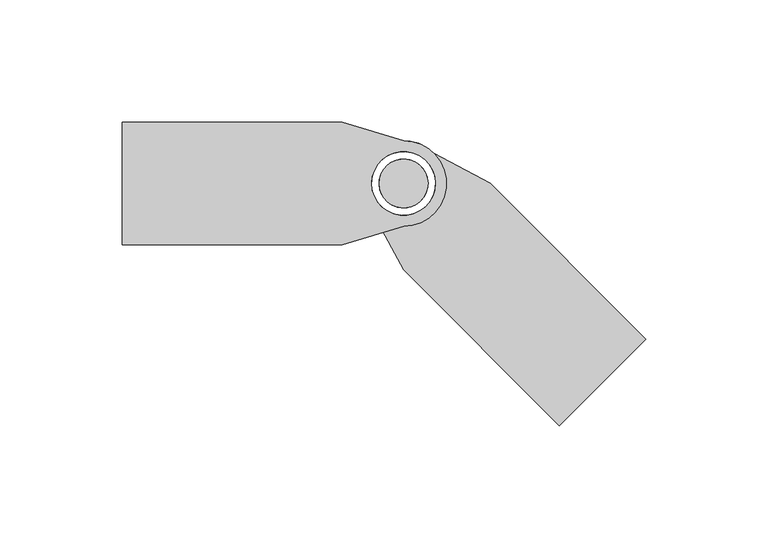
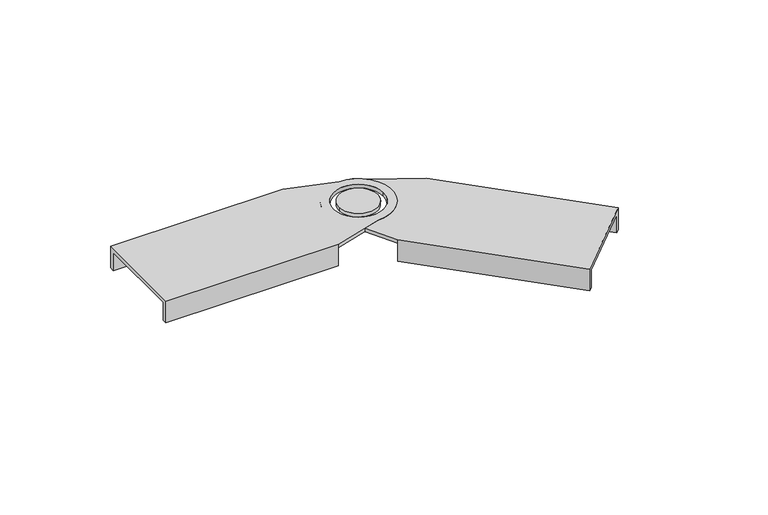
"""IFC4 building model written with IfcOpenShell, lengths in millimetres: cable carrier fitting geometry, BAKS_LD_BEND_Articulated connector_LG : LGC_H45."""

import ifcopenshell
import ifcopenshell.guid

model = None  # the IFC model being written
_history = None  # IfcOwnerHistory: only IFC2X3 demands one
_inside = {}  # id of a spatial element -> (the spatial element, [elements in it])
_under = {}  # id of a project, library or spatial element -> (it, [spatial elements below it])
_declared = {}  # id of a project -> (the project, [libraries it declares])
_typed = {}  # id of a type object -> (the type object, [elements of that type])
_made_of = {}  # id of a material, layer set ... -> (it, [elements and type objects made of it])


def new_model(schema):
    """Start an empty IFC model of exactly this schema.

    Asked for "IFC4X3", IfcOpenShell would pick the latest addendum, in which some entities
    have other attributes; the version numbers below select the first issue.
    IFC2X3 requires an IfcOwnerHistory on every rooted entity: one is made here for all.
    """
    global model, _history
    if schema == "IFC4X3":
        model = ifcopenshell.file(schema_version=(4, 3, 0, 0))
    else:
        model = ifcopenshell.file(schema=schema)
    _inside.clear()
    _under.clear()
    _declared.clear()
    _typed.clear()
    _made_of.clear()
    _history = None
    if model.schema == "IFC2X3":
        org = make("IfcOrganization", Name="unknown")
        user = make(
            "IfcPersonAndOrganization",
            ThePerson=make("IfcPerson", FamilyName="unknown"),
            TheOrganization=org,
        )
        app = make(
            "IfcApplication",
            ApplicationDeveloper=org,
            Version="unknown",
            ApplicationFullName="unknown",
            ApplicationIdentifier="unknown",
        )
        _history = make(
            "IfcOwnerHistory",
            OwningUser=user,
            OwningApplication=app,
            ChangeAction="ADDED",
            CreationDate=0,
        )
    return model


def make(cls, **values):
    """One entity of the class cls with the attributes given. An attribute that is None is left unset."""
    return model.create_entity(
        cls, **{name: value for name, value in values.items() if value is not None}
    )


def rooted(cls, **values):
    """An entity with a GlobalId (a new one), such as an element, a storey or a relation."""
    return make(cls, GlobalId=ifcopenshell.guid.new(), OwnerHistory=_history, **values)


def si_unit(unit_type, name, prefix=None):
    """IfcSIUnit, for example si_unit("LENGTHUNIT", "METRE", prefix="MILLI")."""
    return make("IfcSIUnit", UnitType=unit_type, Prefix=prefix, Name=name)


def assignment(units):
    """IfcUnitAssignment: the units of a project."""
    return None if units is None else make("IfcUnitAssignment", Units=units)


def point(xyz):
    """IfcCartesianPoint."""
    return None if xyz is None else make("IfcCartesianPoint", Coordinates=xyz)


def direction(xyz):
    """IfcDirection."""
    return None if xyz is None else make("IfcDirection", DirectionRatios=xyz)


def frame(location, z_axis=None, x_axis=None):
    """IfcAxis2Placement3D, a coordinate frame: its origin and axes. An axis left out is left unset."""
    return make(
        "IfcAxis2Placement3D",
        Location=point(location),
        Axis=direction(z_axis),
        RefDirection=direction(x_axis),
    )


def origin():
    """The frame at (0, 0, 0) with its axes left unset."""
    return frame((0.0, 0.0, 0.0))


def place(relative_to, where):
    """IfcLocalPlacement: puts the frame where relative to a parent placement (None: the world)."""
    return make(
        "IfcLocalPlacement", PlacementRelTo=relative_to, RelativePlacement=where
    )


def context(
    kind, dimensions, precision=None, world=None, true_north=None, identifier=None
):
    """IfcGeometricRepresentationContext, for example the 3D "Model" context."""
    return make(
        "IfcGeometricRepresentationContext",
        ContextIdentifier=identifier,
        ContextType=kind,
        CoordinateSpaceDimension=dimensions,
        Precision=precision,
        WorldCoordinateSystem=world,
        TrueNorth=true_north,
    )


def project(units=None, contexts=None):
    """IfcProject with its units and contexts."""
    return rooted(
        "IfcProject",
        Name="project",
        RepresentationContexts=contexts,
        UnitsInContext=assignment(units),
    )


def spatial(cls, under=None, at=None, **own):
    """A site, building, storey or space (cls), placed at a placement, below another one or the project."""
    s = rooted(cls, ObjectPlacement=at, **own)
    if under is not None:
        _under.setdefault(under.id(), (under, []))[1].append(s)
    return s


def polyline(points):
    """IfcPolyline through the points."""
    return make("IfcPolyline", Points=[point(p) for p in points])


def circle_curve(where, radius):
    """IfcCircle in the frame where."""
    return make("IfcCircle", Position=where, Radius=radius)


def shape(context_of_items, identifier, shape_type, items):
    """IfcShapeRepresentation: the items that make up one representation, for example the "Body"."""
    return make(
        "IfcShapeRepresentation",
        ContextOfItems=context_of_items,
        RepresentationIdentifier=identifier,
        RepresentationType=shape_type,
        Items=items,
    )


def source(mapping_origin, context_of_items, identifier, shape_type, items):
    """IfcRepresentationMap: a shape defined once, which mapped items show again and again."""
    return make(
        "IfcRepresentationMap",
        MappingOrigin=mapping_origin,
        MappedRepresentation=shape(context_of_items, identifier, shape_type, items),
    )


def transform(
    local_origin,
    x_axis=None,
    y_axis=None,
    z_axis=None,
    scale=None,
    scale2=None,
    scale3=None,
    uniform=True,
):
    """IfcCartesianTransformationOperator3D, or its non-uniform kind. x_axis, y_axis, z_axis: its Axis1, 2, 3."""
    if uniform:
        return make(
            "IfcCartesianTransformationOperator3D",
            Axis1=direction(x_axis),
            Axis2=direction(y_axis),
            LocalOrigin=point(local_origin),
            Scale=scale,
            Axis3=direction(z_axis),
        )
    return make(
        "IfcCartesianTransformationOperator3DnonUniform",
        Axis1=direction(x_axis),
        Axis2=direction(y_axis),
        LocalOrigin=point(local_origin),
        Scale=scale,
        Axis3=direction(z_axis),
        Scale2=scale2,
        Scale3=scale3,
    )


def mapped(mapping_source, mapping_target):
    """IfcMappedItem: shows the shape of a source again, moved by a transform."""
    return make(
        "IfcMappedItem", MappingSource=mapping_source, MappingTarget=mapping_target
    )


def made_of(thing, what):
    """Note that an element or type object is made of a material, layer set ...; save() writes the relation."""
    if what is not None:
        _made_of.setdefault(what.id(), (what, []))[1].append(thing)
    return thing


def element(
    cls,
    number,
    at=None,
    inside=None,
    cuts=None,
    type_object=None,
    material=None,
    context=None,
    identifier="Body",
    shape_type=None,
    held_by="IfcProductDefinitionShape",
    body=None,
    shapes=None,
    **own,
):
    """One element of the class cls, such as IfcWall. Its Tag is "e" and its number.

    at: its placement. inside: the storey or other place that contains it. cuts: it is an
    opening in that element (IfcRelVoidsElement). A single representation is given by context,
    identifier, shape_type and body (its items); several are given by shapes. held_by: the class
    of the entity that holds the representations. save() writes the other relations.
    """
    e = rooted(cls, Tag="e%d" % number, ObjectPlacement=at, **own)
    if body is not None:
        shapes = [shape(context, identifier, shape_type, body)]
    if shapes is not None:
        e.Representation = make(held_by, Representations=shapes)
    if inside is not None:
        _inside.setdefault(inside.id(), (inside, []))[1].append(e)
    if cuts is not None:
        rooted(
            "IfcRelVoidsElement", RelatingBuildingElement=cuts, RelatedOpeningElement=e
        )
    if type_object is not None:
        _typed.setdefault(type_object.id(), (type_object, []))[1].append(e)
    return made_of(e, material)


def aggregate(whole, parts):
    """IfcRelAggregates: a whole, such as a stair, and the parts it consists of."""
    return rooted("IfcRelAggregates", RelatingObject=whole, RelatedObjects=parts)


def save(model, path):
    """Write the relations noted so far, then the file.

    IfcRelAggregates (storeys below a building ...), IfcRelContainedInSpatialStructure (elements
    in a storey), IfcRelDefinesByType, IfcRelAssociatesMaterial and IfcRelDeclares: one each for
    every whole, place, type object, material and project.
    """
    for whole, parts in _under.values():
        aggregate(whole, parts)
    for where, things in _inside.values():
        rooted(
            "IfcRelContainedInSpatialStructure",
            RelatedElements=things,
            RelatingStructure=where,
        )
    for kind, things in _typed.values():
        rooted("IfcRelDefinesByType", RelatedObjects=things, RelatingType=kind)
    for what, things in _made_of.values():
        rooted("IfcRelAssociatesMaterial", RelatedObjects=things, RelatingMaterial=what)
    for by, libraries in _declared.values():
        rooted("IfcRelDeclares", RelatingContext=by, RelatedDefinitions=libraries)
    model.write(path)


def plane_surface(at):
    """IfcPlane: the flat surface through the origin of the frame at, square to its z axis."""
    return make("IfcPlane", Position=at)


def cylinder_surface(at, radius):
    """IfcCylindricalSurface: all points at the distance radius from the z axis of the frame at."""
    return make("IfcCylindricalSurface", Position=at, Radius=radius)


def revolved_surface(curve, axis_point, axis_direction):
    """IfcSurfaceOfRevolution: the curve turned about the line through axis_point along axis_direction."""
    return make(
        "IfcSurfaceOfRevolution",
        SweptCurve=make("IfcArbitraryOpenProfileDef", ProfileType="CURVE", Curve=curve),
        AxisPosition=make("IfcAxis1Placement", Location=point(axis_point), Axis=direction(axis_direction)),
    )


def advanced_brep(points, edges, surfaces, faces):
    """IfcAdvancedBrep: a solid bounded by faces that lie on surfaces and meet in shared edges.

    An edge is (start, end): straight between two places in points (the first is 0);
    or (start, end, curve); or (start, end, curve, False) where it runs against its curve.
    A face is (place in surfaces, loops), or (place, loops, False) where it looks against
    its surface's normal. A loop lists edges by number (the first is 1), with a minus sign
    where the edge is run from its end to its start. The first loop is the outer one.
    """
    corners = [point(p) for p in points]
    vertices = [make("IfcVertexPoint", VertexGeometry=c) for c in corners]
    made = []
    for start, end, *more in edges:
        made.append(
            make(
                "IfcEdgeCurve",
                EdgeStart=vertices[start],
                EdgeEnd=vertices[end],
                EdgeGeometry=more[0] if more else make("IfcPolyline", Points=[corners[start], corners[end]]),
                SameSense=more[1] if len(more) > 1 else True,
            )
        )
    hull = []
    for where, loops, *sense in faces:
        bounds = []
        for j, loop in enumerate(loops):
            ring = [make("IfcOrientedEdge", EdgeElement=made[abs(k) - 1], Orientation=k > 0) for k in loop]
            bounds.append(
                make(
                    "IfcFaceOuterBound" if j == 0 else "IfcFaceBound",
                    Bound=make("IfcEdgeLoop", EdgeList=ring),
                    Orientation=True,
                )
            )
        hull.append(make("IfcAdvancedFace", Bounds=bounds, FaceSurface=surfaces[where], SameSense=sense[0] if sense else True))
    return make("IfcAdvancedBrep", Outer=make("IfcClosedShell", CfsFaces=hull))


def cable_carrier_fitting_d229e209(model_context):
    return source(origin(), model_context, "Body", "AdvancedBrep", [
        advanced_brep(
        [(-115.0, -25.0, 2.0), (-25.0, -25.0, 2.0), (0.0, -17.5, 2.0), (0.0, 17.5, 2.0), (-25.0, 25.0, 2.0), (-115.0, 25.0, 2.0), (13.0, 0.0, 2.0), (-13.0, 0.0, 2.0), (-25.0, 25.0, 0.0), (0.0, 17.5, 0.0), (0.0, -17.5, 0.0), (-25.0, -25.0, 0.0), (-25.0, -22.5, 0.0), (-115.0, -22.5, 0.0), (-115.0, 22.5, 0.0), (-25.0, 22.5, 0.0), (-13.0, 0.0, 0.0), (13.0, 0.0, 0.0), (-115.0, -25.0, -10.0), (-25.0, -25.0, -10.0), (-25.0, 25.0, -10.0), (-115.0, 25.0, -10.0), (-115.0, 22.5, -10.0), (-115.0, -22.5, -10.0), (-25.0, 22.5, -10.0), (-25.0, -22.5, -10.0)],
        [
            (0, 1),
            (1, 2),
            (2, 3, circle_curve(frame((0.0, 0.0, 2.0), z_axis=(0.0, 0.0, 1.0), x_axis=(-1.0, 0.0, 0.0)), 17.5)),
            (3, 4),
            (4, 5),
            (5, 0),
            (6, 7, circle_curve(frame((0.0, 0.0, 2.0), z_axis=(0.0, 0.0, -1.0), x_axis=(-1.0, 0.0, 0.0)), 13.0)),
            (7, 6, circle_curve(frame((0.0, 0.0, 2.0), z_axis=(0.0, 0.0, -1.0), x_axis=(-1.0, 0.0, 0.0)), 13.0)),
            (8, 9),
            (9, 10, circle_curve(frame((0.0, 0.0, 0.0), z_axis=(0.0, 0.0, -1.0), x_axis=(-1.0, 0.0, 0.0)), 17.5)),
            (10, 11),
            (11, 12),
            (12, 13),
            (13, 14),
            (14, 15),
            (15, 8),
            (16, 17, circle_curve(frame((0.0, 0.0, 0.0), z_axis=(0.0, 0.0, 1.0), x_axis=(-1.0, 0.0, 0.0)), 13.0)),
            (17, 16, circle_curve(frame((0.0, 0.0, 0.0), z_axis=(0.0, 0.0, 1.0), x_axis=(-1.0, 0.0, 0.0)), 13.0)),
            (0, 18),
            (18, 19),
            (19, 11),
            (11, 1),
            (4, 8),
            (8, 20),
            (20, 21),
            (21, 5),
            (21, 22),
            (22, 14),
            (13, 23),
            (23, 18),
            (6, 17),
            (16, 7),
            (10, 2),
            (9, 3),
            (20, 24),
            (24, 22),
            (24, 15),
            (23, 25),
            (25, 19),
            (25, 12),
        ],
        [
            plane_surface(frame((-25.0, -25.0, 2.0), z_axis=(0.0, 0.0, 1.0), x_axis=(1.0, 0.0, 0.0))),
            plane_surface(frame((-25.0, -25.0, 0.0), z_axis=(0.0, 0.0, -1.0), x_axis=(-1.0, 0.0, 0.0))),
            plane_surface(frame((-115.0, -25.0, 2.0), z_axis=(0.0, -1.0, 0.0), x_axis=(0.0, 0.0, -1.0))),
            plane_surface(frame((-25.0, 25.0, 2.0), z_axis=(0.0, 1.0, 0.0), x_axis=(0.0, 0.0, -1.0))),
            plane_surface(frame((-115.0, 25.0, 2.0), z_axis=(-1.0, 0.0, 0.0), x_axis=(0.0, 0.0, -1.0))),
            revolved_surface(polyline([(-13.0, 0.0, 2.0), (-13.0, 0.0, 0.0)]), (0.0, 0.0, 0.0), (0.0, 0.0, 1.0)),
            plane_surface(frame((-25.0, -25.0, 2.0), z_axis=(0.28734788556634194, -0.9578262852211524, 0.0), x_axis=(0.0, 0.0, -1.0))),
            cylinder_surface(frame((0.0, 0.0, 0.0), z_axis=(0.0, 0.0, 1.0), x_axis=(-1.0, 0.0, 0.0)), 17.5),
            plane_surface(frame((0.0, 17.5, 2.0), z_axis=(0.2873478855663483, 0.9578262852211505, 0.0), x_axis=(0.0, 0.0, -1.0))),
            plane_surface(frame((-25.0, 22.5, -10.0), z_axis=(0.0, 0.0, -1.0), x_axis=(-1.0, 0.0, 0.0))),
            plane_surface(frame((-115.0, 22.5, 0.0), z_axis=(0.0, -1.0, 0.0), x_axis=(0.0, 0.0, -1.0))),
            plane_surface(frame((-25.0, 22.5, 0.0), z_axis=(1.0, 0.0, 0.0), x_axis=(0.0, 0.0, -1.0))),
            plane_surface(frame((-25.0, -25.0, -10.0), z_axis=(0.0, 0.0, -1.0), x_axis=(-1.0, 0.0, 0.0))),
            plane_surface(frame((-25.0, -25.0, 0.0), z_axis=(1.0, 0.0, 0.0), x_axis=(0.0, 0.0, -1.0))),
            plane_surface(frame((-25.0, -22.5, 0.0), z_axis=(0.0, 1.0, 0.0), x_axis=(0.0, 0.0, -1.0))),
        ],
        [
            (0, [[1, 2, 3, 4, 5, 6], [7, 8]]),
            (1, [[9, 10, 11, 12, 13, 14, 15, 16], [17, 18]]),
            (2, [[-1, 19, 20, 21, 22]]),
            (3, [[-5, 23, 24, 25, 26]]),
            (4, [[-19, -6, -26, 27, 28, -14, 29, 30]]),
            (5, [[31, -17, 32, -7]]),
            (5, [[-31, -8, -32, -18]]),
            (6, [[-2, -22, -11, 33]]),
            (7, [[-3, -33, -10, 34]]),
            (8, [[-4, -34, -9, -23]]),
            (9, [[-27, -25, 35, 36]]),
            (10, [[-36, 37, -15, -28]]),
            (11, [[-35, -24, -16, -37]]),
            (12, [[-30, 38, 39, -20]]),
            (13, [[-39, 40, -12, -21]]),
            (14, [[-38, -29, -13, -40]]),
        ],
    ),
        advanced_brep(
        [(10.0, 0.0, 2.0), (-10.0, 0.0, 2.0), (-10.0, 0.0, 0.0), (10.0, 0.0, 0.0)],
        [
            (0, 1, circle_curve(frame((0.0, 0.0, 2.0), z_axis=(0.0, 0.0, 1.0), x_axis=(-1.0, 0.0, 0.0)), 10.0)),
            (1, 0, circle_curve(frame((0.0, 0.0, 2.0), z_axis=(0.0, 0.0, 1.0), x_axis=(-1.0, 0.0, 0.0)), 10.0)),
            (2, 3, circle_curve(frame((0.0, 0.0, 0.0), z_axis=(0.0, 0.0, -1.0), x_axis=(-1.0, 0.0, 0.0)), 10.0)),
            (3, 2, circle_curve(frame((0.0, 0.0, 0.0), z_axis=(0.0, 0.0, -1.0), x_axis=(-1.0, 0.0, 0.0)), 10.0)),
            (0, 3),
            (2, 1),
        ],
        [
            plane_surface(frame((-25.0, -25.0, 2.0), z_axis=(0.0, 0.0, 1.0), x_axis=(1.0, 0.0, 0.0))),
            plane_surface(frame((-25.0, -25.0, 0.0), z_axis=(0.0, 0.0, -1.0), x_axis=(-1.0, 0.0, 0.0))),
            cylinder_surface(frame((0.0, 0.0, 0.0), z_axis=(0.0, 0.0, -1.0), x_axis=(-1.0, 0.0, 0.0)), 10.0),
        ],
        [
            (0, [[1, 2]]),
            (1, [[3, 4]]),
            (2, [[5, -3, 6, -1]]),
            (2, [[-5, -2, -6, -4]]),
        ],
    ),
        advanced_brep(
        [(63.6396103, -98.9949494, 2.0), (98.9949494, -63.6396103, 2.0), (35.3553391, 0.0, 2.0), (12.3743687, 12.3743687, 2.0), (-12.3743687, -12.3743687, 2.0), (0.0, -35.3553391, 2.0), (-9.1923882, 9.1923882, 2.0), (9.1923882, -9.1923882, 2.0), (35.3553391, 0.0, 0.0), (33.5875721, -1.767767, 0.0), (97.2271824, -65.4073773, 0.0), (65.4073773, -97.2271824, 0.0), (1.767767, -33.5875721, 0.0), (0.0, -35.3553391, 0.0), (-12.3743687, -12.3743687, 0.0), (12.3743687, 12.3743687, 0.0), (9.1923882, -9.1923882, 0.0), (-9.1923882, 9.1923882, 0.0), (0.0, -35.3553391, -10.0), (63.6396103, -98.9949494, -10.0), (98.9949494, -63.6396103, -10.0), (35.3553391, 0.0, -10.0), (65.4073773, -97.2271824, -10.0), (97.2271824, -65.4073773, -10.0), (33.5875721, -1.767767, -10.0), (1.767767, -33.5875721, -10.0)],
        [
            (0, 1),
            (1, 2),
            (2, 3),
            (3, 4, circle_curve(frame((0.0, 0.0, 2.0), z_axis=(0.0, 0.0, 1.0), x_axis=(0.7071067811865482, -0.7071067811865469, 0.0)), 17.5)),
            (4, 5),
            (5, 0),
            (6, 7, circle_curve(frame((0.0, 0.0, 2.0), z_axis=(0.0, 0.0, -1.0), x_axis=(0.7071067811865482, -0.7071067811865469, 0.0)), 13.0)),
            (7, 6, circle_curve(frame((0.0, 0.0, 2.0), z_axis=(0.0, 0.0, -1.0), x_axis=(0.7071067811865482, -0.7071067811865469, 0.0)), 13.0)),
            (8, 9),
            (9, 10),
            (10, 11),
            (11, 12),
            (12, 13),
            (13, 14),
            (14, 15, circle_curve(frame((0.0, 0.0, 0.0), z_axis=(0.0, 0.0, -1.0), x_axis=(0.7071067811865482, -0.7071067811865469, 0.0)), 17.5)),
            (15, 8),
            (16, 17, circle_curve(frame((0.0, 0.0, 0.0), z_axis=(0.0, 0.0, 1.0), x_axis=(0.7071067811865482, -0.7071067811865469, 0.0)), 13.0)),
            (17, 16, circle_curve(frame((0.0, 0.0, 0.0), z_axis=(0.0, 0.0, 1.0), x_axis=(0.7071067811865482, -0.7071067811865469, 0.0)), 13.0)),
            (5, 13),
            (13, 18),
            (18, 19),
            (19, 0),
            (1, 20),
            (20, 21),
            (21, 8),
            (8, 2),
            (19, 22),
            (22, 11),
            (10, 23),
            (23, 20),
            (7, 16),
            (17, 6),
            (4, 14),
            (3, 15),
            (23, 24),
            (24, 21),
            (9, 24),
            (18, 25),
            (25, 22),
            (12, 25),
        ],
        [
            plane_surface(frame((0.0, -35.3553391, 2.0), z_axis=(0.0, 0.0, 1.0), x_axis=(-0.7071067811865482, 0.7071067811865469, 0.0))),
            plane_surface(frame((0.0, -35.3553391, 0.0), z_axis=(0.0, 0.0, -1.0), x_axis=(0.7071067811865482, -0.7071067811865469, 0.0))),
            plane_surface(frame((63.6396103, -98.9949494, 2.0), z_axis=(-0.7071067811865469, -0.7071067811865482, 0.0), x_axis=(0.0, 0.0, -1.0))),
            plane_surface(frame((35.3553391, 0.0, 2.0), z_axis=(0.7071067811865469, 0.7071067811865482, 0.0), x_axis=(0.0, 0.0, -1.0))),
            plane_surface(frame((98.9949494, -63.6396103, 2.0), z_axis=(0.7071067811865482, -0.7071067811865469, 0.0), x_axis=(0.0, 0.0, -1.0))),
            revolved_surface(polyline([(9.192388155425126, -9.19238815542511, 2.0), (9.192388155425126, -9.19238815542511, 0.0)]), (0.0, 0.0, 0.0), (0.0, 0.0, 1.0)),
            plane_surface(frame((0.0, -35.3553391, 2.0), z_axis=(-0.8804710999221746, -0.4740998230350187, 0.0), x_axis=(0.0, 0.0, -1.0))),
            cylinder_surface(frame((0.0, 0.0, 0.0), z_axis=(0.0, 0.0, 1.0), x_axis=(0.7071067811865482, -0.7071067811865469, 0.0)), 17.5),
            plane_surface(frame((12.3743687, 12.3743687, 2.0), z_axis=(0.4740998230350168, 0.8804710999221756, 0.0), x_axis=(0.0, 0.0, -1.0))),
            plane_surface(frame((33.5875721, -1.767767, -10.0), z_axis=(0.0, 0.0, -1.0), x_axis=(0.7071067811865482, -0.7071067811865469, 0.0))),
            plane_surface(frame((97.2271824, -65.4073773, 0.0), z_axis=(-0.7071067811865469, -0.7071067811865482, 0.0), x_axis=(0.0, 0.0, -1.0))),
            plane_surface(frame((33.5875721, -1.767767, 0.0), z_axis=(-0.7071067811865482, 0.7071067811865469, 0.0), x_axis=(0.0, 0.0, -1.0))),
            plane_surface(frame((0.0, -35.3553391, -10.0), z_axis=(0.0, 0.0, -1.0), x_axis=(0.7071067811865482, -0.7071067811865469, 0.0))),
            plane_surface(frame((0.0, -35.3553391, 0.0), z_axis=(-0.7071067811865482, 0.7071067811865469, 0.0), x_axis=(0.0, 0.0, -1.0))),
            plane_surface(frame((1.767767, -33.5875721, 0.0), z_axis=(0.7071067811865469, 0.7071067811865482, 0.0), x_axis=(0.0, 0.0, -1.0))),
        ],
        [
            (0, [[1, 2, 3, 4, 5, 6], [7, 8]]),
            (1, [[9, 10, 11, 12, 13, 14, 15, 16], [17, 18]]),
            (2, [[19, 20, 21, 22, -6]]),
            (3, [[23, 24, 25, 26, -2]]),
            (4, [[27, 28, -11, 29, 30, -23, -1, -22]]),
            (5, [[-8, 31, -18, 32]]),
            (5, [[-17, -31, -7, -32]]),
            (6, [[33, -14, -19, -5]]),
            (7, [[34, -15, -33, -4]]),
            (8, [[-26, -16, -34, -3]]),
            (9, [[35, 36, -24, -30]]),
            (10, [[-29, -10, 37, -35]]),
            (11, [[-37, -9, -25, -36]]),
            (12, [[-21, 38, 39, -27]]),
            (13, [[-20, -13, 40, -38]]),
            (14, [[-40, -12, -28, -39]]),
        ],
    ),
        advanced_brep(
        [(-7.0710678, 7.0710678, 2.0), (7.0710678, -7.0710678, 2.0), (7.0710678, -7.0710678, 0.0), (-7.0710678, 7.0710678, 0.0)],
        [
            (0, 1, circle_curve(frame((0.0, 0.0, 2.0), z_axis=(0.0, 0.0, 1.0), x_axis=(0.7071067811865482, -0.7071067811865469, 0.0)), 10.0)),
            (1, 0, circle_curve(frame((0.0, 0.0, 2.0), z_axis=(0.0, 0.0, 1.0), x_axis=(0.7071067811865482, -0.7071067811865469, 0.0)), 10.0)),
            (2, 3, circle_curve(frame((0.0, 0.0, 0.0), z_axis=(0.0, 0.0, -1.0), x_axis=(0.7071067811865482, -0.7071067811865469, 0.0)), 10.0)),
            (3, 2, circle_curve(frame((0.0, 0.0, 0.0), z_axis=(0.0, 0.0, -1.0), x_axis=(0.7071067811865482, -0.7071067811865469, 0.0)), 10.0)),
            (1, 2),
            (3, 0),
        ],
        [
            plane_surface(frame((0.0, -35.3553391, 2.0), z_axis=(0.0, 0.0, 1.0), x_axis=(-0.7071067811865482, 0.7071067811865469, 0.0))),
            plane_surface(frame((0.0, -35.3553391, 0.0), z_axis=(0.0, 0.0, -1.0), x_axis=(0.7071067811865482, -0.7071067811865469, 0.0))),
            cylinder_surface(frame((0.0, 0.0, 0.0), z_axis=(0.0, 0.0, -1.0), x_axis=(0.7071067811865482, -0.7071067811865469, 0.0)), 10.0),
        ],
        [
            (0, [[1, 2]]),
            (1, [[3, 4]]),
            (2, [[-2, 5, -4, 6]]),
            (2, [[-3, -5, -1, -6]]),
        ],
    ),
    ])


if __name__ == "__main__":
    model = new_model("IFC4")
    model_context = context("Model", 3, world=origin())
    ifc_project = project(units=[si_unit("LENGTHUNIT", "METRE", prefix="MILLI")], contexts=[model_context])
    site = spatial("IfcSite", under=ifc_project)
    building = spatial("IfcBuilding", under=site)
    placement = place(None, origin())
    cable_carrier_fitting_shape = cable_carrier_fitting_d229e209(model_context)
    element("IfcCableCarrierFitting", 1, ObjectType="BAKS_LD_BEND_Articulated connector_LG : LGC_H45", at=placement, inside=building, context=model_context, shape_type="MappedRepresentation", body=[
        mapped(cable_carrier_fitting_shape, transform((0.0, 0.0, 0.0), x_axis=(1.0, 0.0, 0.0), y_axis=(0.0, 1.0, 0.0), z_axis=(0.0, 0.0, 1.0))),
    ])
    save(model, "model.ifc")
